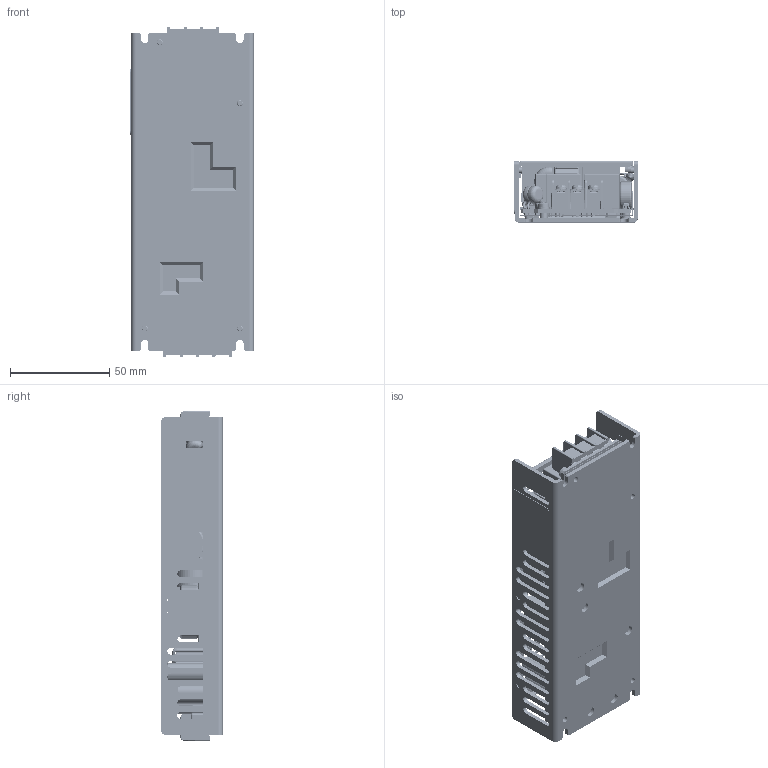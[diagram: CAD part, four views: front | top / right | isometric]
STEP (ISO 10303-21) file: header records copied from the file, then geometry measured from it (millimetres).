
FILE_DESCRIPTION (( 'STEP AP214' ), '1' );
FILE_NAME ('CUS200LD_20170815.STEP', '2017-08-15T02:31:30', ( '' ), ( '' ), 'SwSTEP 2.0', 'SolidWorks 2014', '' );
FILE_SCHEMA (( 'AUTOMOTIVE_DESIGN' ));
Length unit declared in the file: millimetre
Products named in the file (356): TH-14_5X8P7_5H21.5; R3216; C-ELE-10_0P5H20_8X12; R1608; C1608; taple 1; CA850-33-02; SOP8-W4_0; TK16V60W; C-ELE-10_0P5H12_5; R2125; CA850-32-02; 3S; S-FLAT; SC-70; CA850-32-01_B; C-FIL-18X9P15H18; SC-79; SEMS SCREW M3X6 FE NI; CA850-32-01; C3216; DPAK_S; L-CV650050SKA-H23; SC-76; R3225; SA-VAR-14X6_2P7_5H22_______; 3S_______; Name plate; CUS200LD_20170815; SC-59; R-CT-6EP-0R9; C-Y1-9X5P10H12_152M; TB-B8250104PK-H14_7; FET-2SK2615-SC62; TB-B8250103PK-H14_7; 4LSOP; ccb22106291; F-8_5X4_0P5_08H8_5; TDSON-8; MSOP8-W3_0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
Assembly tree (300 placements, depth 3):
  TH-14_5X8P7_5H21.5
  R3216
  R3216
  R1608
  C1608
Bounding box: 62.3 x 31 x 166.2 mm (x, y, z)
Volume: 118775.5 mm3; surface area: 164099.1 mm2
Topology: 753 solids, 771 shells, 12598 faces, 31870 edges, 20612 vertices
Faces by surface type: plane 8939, cylinder 2172, torus 596, bspline 438, cone 339, sphere 114
Entity records: 275036 total; most frequent: CARTESIAN_POINT 53659, ORIENTED_EDGE 36544, DIRECTION 34329, EDGE_CURVE 18341, LINE 12107, VECTOR 12107, VERTEX_POINT 11806, AXIS2_PLACEMENT_3D 11111
